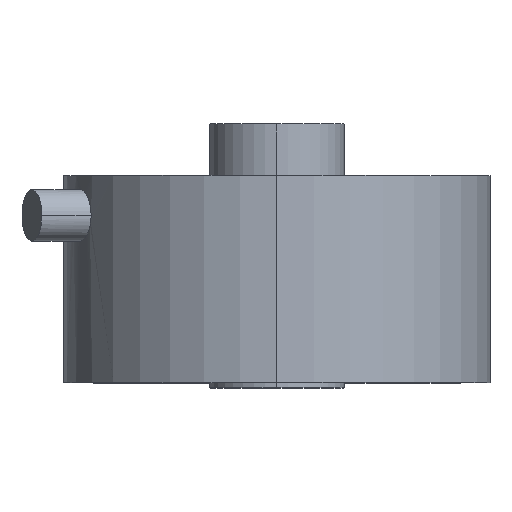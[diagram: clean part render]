
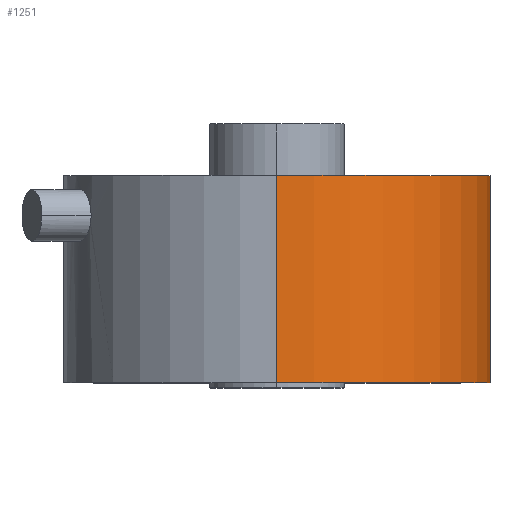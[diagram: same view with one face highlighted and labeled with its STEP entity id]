
A CAD part, top view. The second image highlights one B-rep face of the part: STEP entity #1251.
In plain terms, the highlighted cylindrical face has radius 52.324 mm (diameter 104.648 mm), a partial arc.
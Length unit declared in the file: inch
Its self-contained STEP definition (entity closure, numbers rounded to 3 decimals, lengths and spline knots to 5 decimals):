
#12 = ORIENTED_EDGE ( 'NONE', *, *, #844, .T. ) ;
#148 = EDGE_CURVE ( 'NONE', #1631, #999, #789, .T. ) ;
#178 = DIRECTION ( 'NONE',  ( 0., -1., 0. ) ) ;
#183 = CIRCLE ( 'NONE', #1933, 2.06 ) ;
#233 = CARTESIAN_POINT ( 'NONE',  ( 0., 0., -2.06 ) ) ;
#288 = DIRECTION ( 'NONE',  ( 0., 0., 1. ) ) ;
#321 = CARTESIAN_POINT ( 'NONE',  ( 0., 2., 0. ) ) ;
#322 = FACE_OUTER_BOUND ( 'NONE', #1935, .T. ) ;
#341 = ORIENTED_EDGE ( 'NONE', *, *, #1128, .T. ) ;
#392 = LINE ( 'NONE', #1594, #1458 ) ;
#425 = DIRECTION ( 'NONE',  ( 0., 1., 0. ) ) ;
#451 = DIRECTION ( 'NONE',  ( 0., 1., 0. ) ) ;
#598 = CARTESIAN_POINT ( 'NONE',  ( 0., 0., 0. ) ) ;
#672 = AXIS2_PLACEMENT_3D ( 'NONE', #2011, #451, #288 ) ;
#789 = CIRCLE ( 'NONE', #672, 2.06 ) ;
#844 = EDGE_CURVE ( 'NONE', #1631, #1605, #392, .T. ) ;
#847 = CARTESIAN_POINT ( 'NONE',  ( 0., 2., -2.06 ) ) ;
#880 = VERTEX_POINT ( 'NONE', #233 ) ;
#924 = DIRECTION ( 'NONE',  ( 0., 0., 1. ) ) ;
#999 = VERTEX_POINT ( 'NONE', #847 ) ;
#1043 = EDGE_CURVE ( 'NONE', #999, #880, #1676, .T. ) ;
#1128 = EDGE_CURVE ( 'NONE', #1605, #880, #183, .T. ) ;
#1251 = ADVANCED_FACE ( 'NONE', ( #322 ), #1819, .T. ) ;
#1262 = DIRECTION ( 'NONE',  ( 0., 0., -1. ) ) ;
#1328 = CARTESIAN_POINT ( 'NONE',  ( 0., 2., -2.06 ) ) ;
#1359 = DIRECTION ( 'NONE',  ( 0., -1., 0. ) ) ;
#1441 = DIRECTION ( 'NONE',  ( 0., -1., 0. ) ) ;
#1454 = ORIENTED_EDGE ( 'NONE', *, *, #148, .F. ) ;
#1458 = VECTOR ( 'NONE', #1441, 39.37008 ) ;
#1594 = CARTESIAN_POINT ( 'NONE',  ( 0., 2., 2.06 ) ) ;
#1605 = VERTEX_POINT ( 'NONE', #1814 ) ;
#1627 = AXIS2_PLACEMENT_3D ( 'NONE', #321, #178, #1262 ) ;
#1631 = VERTEX_POINT ( 'NONE', #1837 ) ;
#1670 = ORIENTED_EDGE ( 'NONE', *, *, #1043, .F. ) ;
#1676 = LINE ( 'NONE', #1328, #1936 ) ;
#1814 = CARTESIAN_POINT ( 'NONE',  ( 0., 0., 2.06 ) ) ;
#1819 = CYLINDRICAL_SURFACE ( 'NONE', #1627, 2.06 ) ;
#1837 = CARTESIAN_POINT ( 'NONE',  ( 0., 2., 2.06 ) ) ;
#1933 = AXIS2_PLACEMENT_3D ( 'NONE', #598, #425, #924 ) ;
#1935 = EDGE_LOOP ( 'NONE', ( #1454, #12, #341, #1670 ) ) ;
#1936 = VECTOR ( 'NONE', #1359, 39.37008 ) ;
#2011 = CARTESIAN_POINT ( 'NONE',  ( 0., 2., 0. ) ) ;
